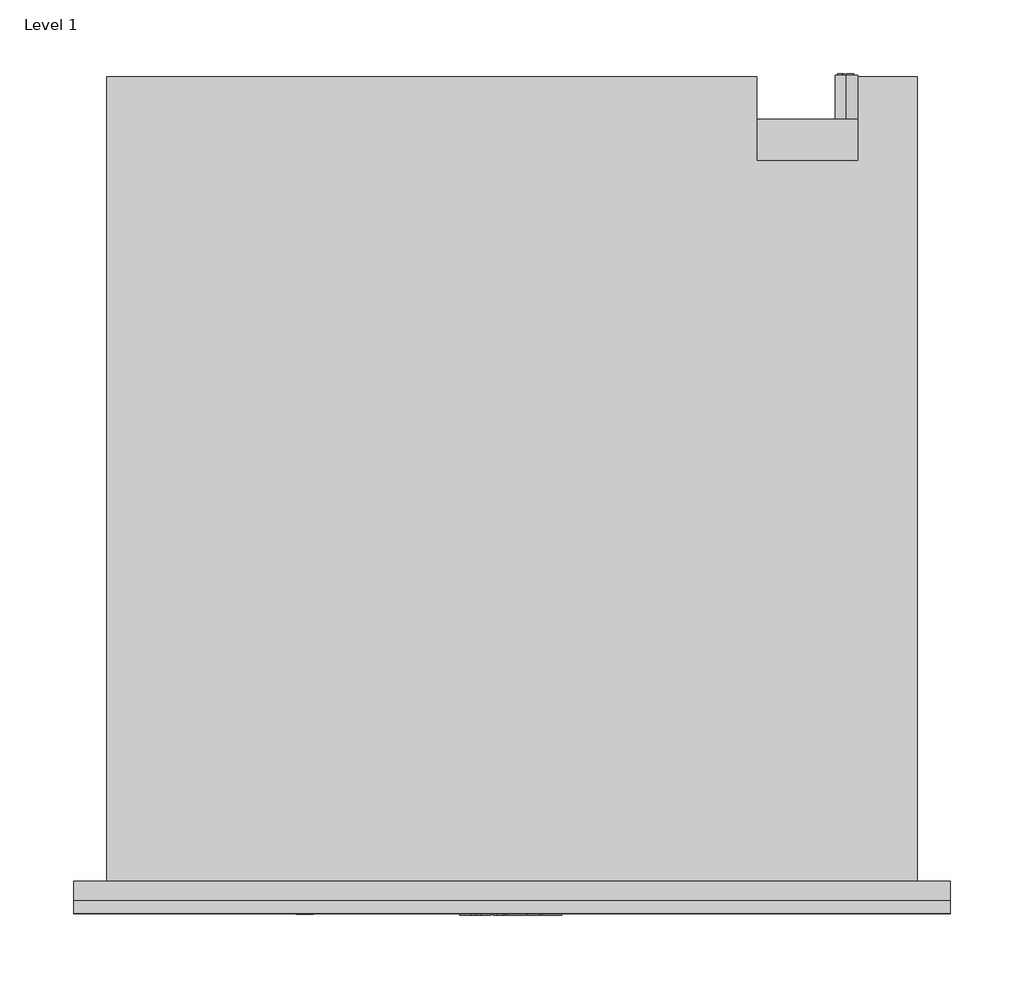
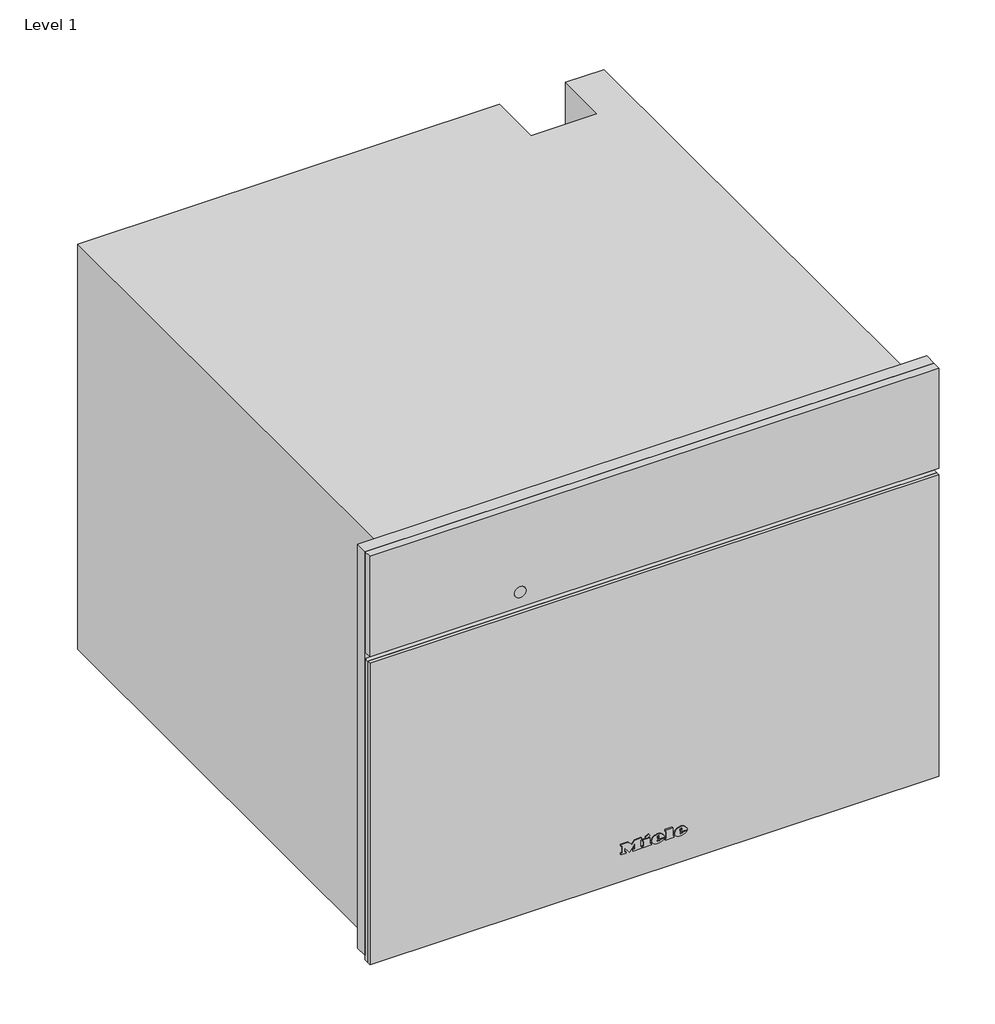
# One storey: 1 proxy.
"""IFC4 building model written with IfcOpenShell, lengths in millimetres."""

from ifc_helpers import new_model, si_unit, origin, place, context, project, spatial, transform, mapped, element, save
from components import specialty_equipment_7f041e0e

model = new_model("IFC4")

# Units and contexts
model_context = context("Model", 3, world=origin())
ifc_project = project(units=[si_unit("LENGTHUNIT", "METRE", prefix="MILLI")], contexts=[model_context])

# Site, building, storey
site = spatial("IfcSite", under=ifc_project)
building = spatial("IfcBuilding", under=site)
storey = spatial("IfcBuildingStorey", under=building, Name="Level 1", Elevation=0.0)

# Proxy
placement = place(None, origin())
specialty_equipment_shape = specialty_equipment_7f041e0e(model_context)
element("IfcBuildingElementProxy", 1, Name="11107110_D_DGC7840X_OBSW : 23784062_D_11107110_DGC7840X_OBSW", ObjectType="11107110_D_DGC7840X_OBSW : 23784062_D_11107110_DGC7840X_OBSW", at=placement, inside=storey, context=model_context, shape_type="MappedRepresentation", body=[
    mapped(specialty_equipment_shape, transform((0.0, 0.0, 0.0), x_axis=(1.0, 0.0, 0.0), y_axis=(0.0, 1.0, 0.0), z_axis=(0.0, 0.0, 1.0))),
])

save(model, "model.ifc")
